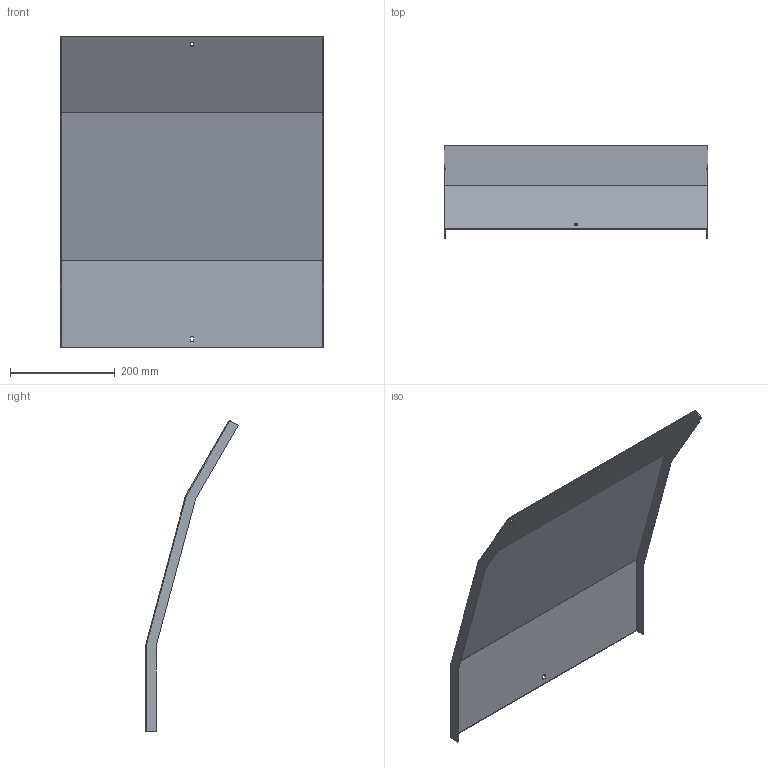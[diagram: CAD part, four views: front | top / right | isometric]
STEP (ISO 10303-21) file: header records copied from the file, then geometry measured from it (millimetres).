
FILE_DESCRIPTION (( 'STEP AP214' ), '1' );
FILE_NAME ('35N5J500.step', '2025-02-21T10:29:44', ( '' ), ( '' ), 'SwSTEP 2.0', 'SolidWorks 2023', '' );
FILE_SCHEMA (( 'AUTOMOTIVE_DESIGN' ));
Length unit declared in the file: millimetre
Products named in the file (1): 35N5J500
Bounding box: 503 x 176.54 x 594.21 mm (x, y, z)
Volume: 506703.4 mm3; surface area: 679166.7 mm2
Topology: 1 solids, 1 shells, 26 faces, 72 edges, 48 vertices
Faces by surface type: plane 26
Entity records: 847 total; most frequent: CARTESIAN_POINT 147, ORIENTED_EDGE 144, DIRECTION 126, LINE 72, EDGE_CURVE 72, VECTOR 72, VERTEX_POINT 48, EDGE_LOOP 30
